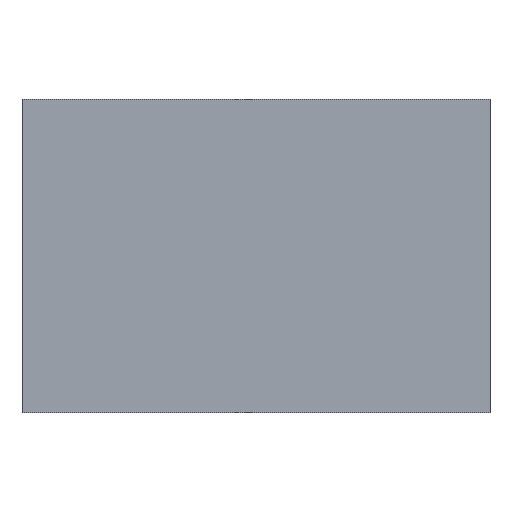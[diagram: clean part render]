
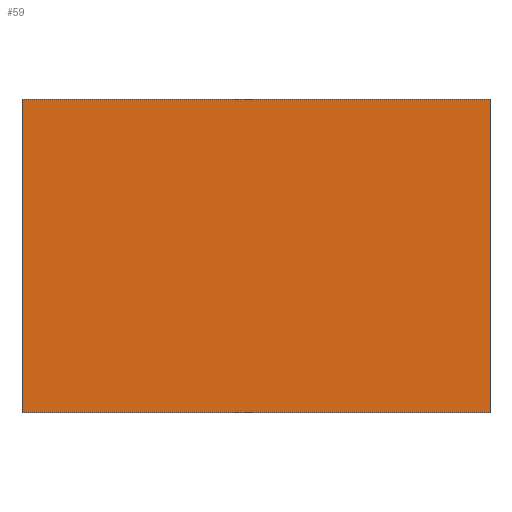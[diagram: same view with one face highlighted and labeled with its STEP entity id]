
A CAD part, top view. The second image highlights one B-rep face of the part: STEP entity #59.
In plain terms, the highlighted planar face has unit normal (0, 0, 1).
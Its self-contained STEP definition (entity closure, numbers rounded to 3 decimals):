
#59=ADVANCED_FACE('',(#71),#287,.T.);
#71=FACE_OUTER_BOUND('',#83,.T.);
#83=EDGE_LOOP('',(#128,#129,#130,#131));
#128=ORIENTED_EDGE('',*,*,#176,.T.);
#129=ORIENTED_EDGE('',*,*,#177,.T.);
#130=ORIENTED_EDGE('',*,*,#178,.T.);
#131=ORIENTED_EDGE('',*,*,#179,.T.);
#176=EDGE_CURVE('',#273,#272,#224,.T.);
#177=EDGE_CURVE('',#272,#274,#225,.T.);
#178=EDGE_CURVE('',#274,#275,#226,.T.);
#179=EDGE_CURVE('',#275,#273,#227,.T.);
#224=B_SPLINE_CURVE_WITH_KNOTS('',1,(#486,#487),.UNSPECIFIED.,.F.,.F.,(2,
2),(0.,1030.),.UNSPECIFIED.);
#225=B_SPLINE_CURVE_WITH_KNOTS('',1,(#488,#489),.UNSPECIFIED.,.F.,.F.,(2,
2),(1030.,1720.),.UNSPECIFIED.);
#226=B_SPLINE_CURVE_WITH_KNOTS('',1,(#490,#491),.UNSPECIFIED.,.F.,.F.,(2,
2),(1720.,2750.),.UNSPECIFIED.);
#227=B_SPLINE_CURVE_WITH_KNOTS('',1,(#492,#493),.UNSPECIFIED.,.F.,.F.,(2,
2),(2750.,3440.),.UNSPECIFIED.);
#272=VERTEX_POINT('',#482);
#273=VERTEX_POINT('',#483);
#274=VERTEX_POINT('',#484);
#275=VERTEX_POINT('',#485);
#287=PLANE('',#319);
#319=AXIS2_PLACEMENT_3D('',#481,#334,$);
#334=DIRECTION('',(0.,0.,1.));
#481=CARTESIAN_POINT('',(-473.304,-308.302,180.));
#482=CARTESIAN_POINT('',(556.696,-308.302,180.));
#483=CARTESIAN_POINT('',(-473.304,-308.302,180.));
#484=CARTESIAN_POINT('',(556.696,381.698,180.));
#485=CARTESIAN_POINT('',(-473.304,381.698,180.));
#486=CARTESIAN_POINT('',(-473.304,-308.302,180.));
#487=CARTESIAN_POINT('',(556.696,-308.302,180.));
#488=CARTESIAN_POINT('',(556.696,-308.302,180.));
#489=CARTESIAN_POINT('',(556.696,381.698,180.));
#490=CARTESIAN_POINT('',(556.696,381.698,180.));
#491=CARTESIAN_POINT('',(-473.304,381.698,180.));
#492=CARTESIAN_POINT('',(-473.304,381.698,180.));
#493=CARTESIAN_POINT('',(-473.304,-308.302,180.));
